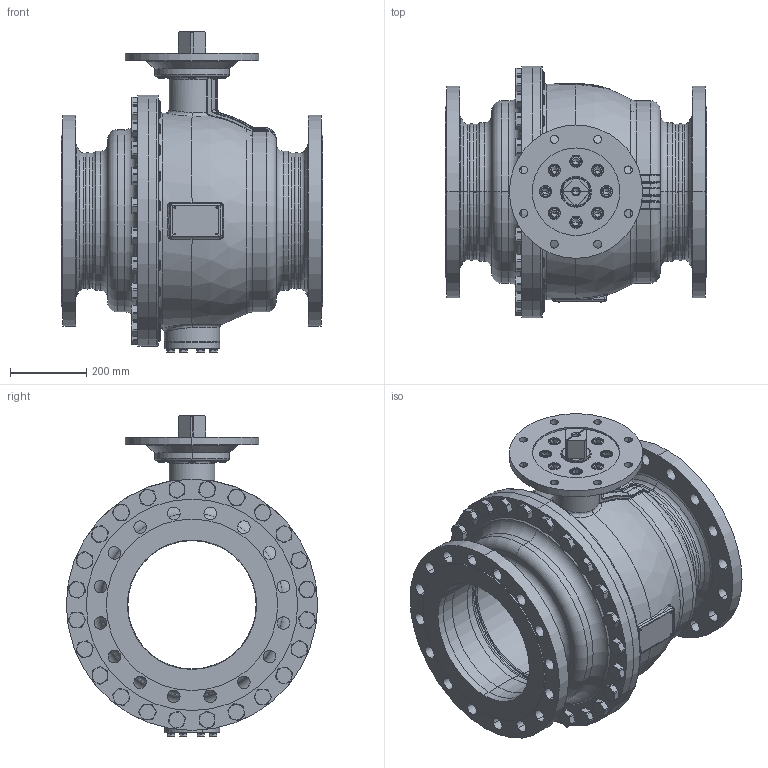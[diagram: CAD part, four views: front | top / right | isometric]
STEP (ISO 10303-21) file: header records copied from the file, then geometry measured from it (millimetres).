
FILE_DESCRIPTION((''),'2;1');
FILE_NAME('KHI-F_350_PN025-F30-4_SW0001','2026-02-05T15:43:08',('fischerkl'),('KLINGER'),'CREO PARAMETRIC BY PTC INC, 2023014','CREO PARAMETRIC BY PTC INC, 2023014','');
FILE_SCHEMA(('CONFIG_CONTROL_DESIGN'));
Products named in the file (1): KHI-F_350_PN025-F30-4_SW0001
Bounding box: 686 x 660 x 842.8 mm (x, y, z)
Volume: 46472197.3 mm3; surface area: 6066513.8 mm2
Topology: 1 solids, 4 shells, 3389 faces, 8552 edges, 5337 vertices
Faces by surface type: plane 1732, cylinder 789, cone 448, torus 291, bspline 99, sphere 30
Entity records: 143019 total; most frequent: CARTESIAN_POINT 62241, ORIENTED_EDGE 17052, DIRECTION 16733, EDGE_CURVE 8526, AXIS2_PLACEMENT_3D 6378, VERTEX_POINT 5337, VECTOR 3977, LINE 3977
